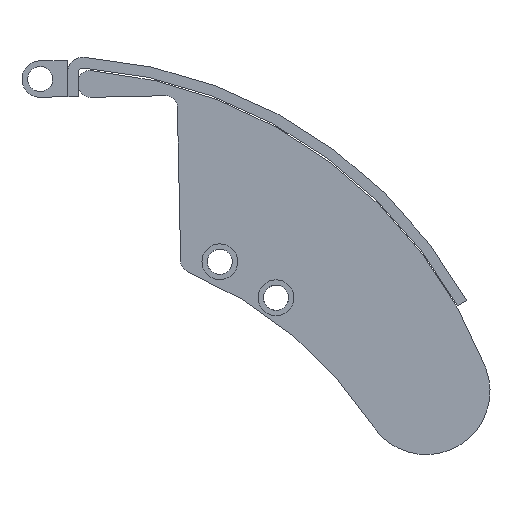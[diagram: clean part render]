
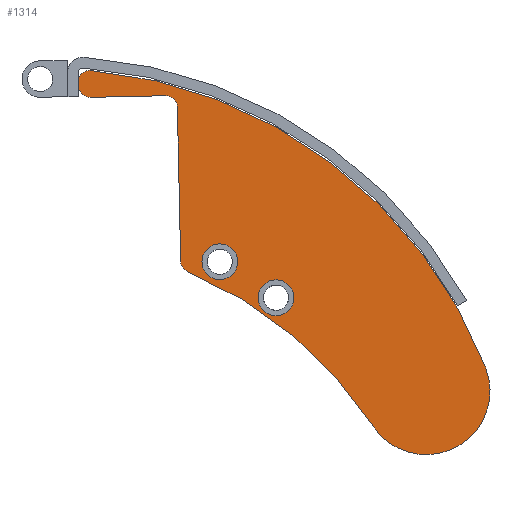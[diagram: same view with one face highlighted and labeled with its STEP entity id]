
A CAD part, front view. The second image highlights one B-rep face of the part: STEP entity #1314.
In plain terms, the highlighted planar face has unit normal (0, -1, 0).
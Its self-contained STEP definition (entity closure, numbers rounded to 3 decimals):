
#19 = FACE_BOUND ( 'NONE', #1353, .T. ) ;
#35 = EDGE_LOOP ( 'NONE', ( #888, #1265, #868, #1723, #1143, #1084, #1852, #40, #2043, #1909 ) ) ;
#40 = ORIENTED_EDGE ( 'NONE', *, *, #1778, .F. ) ;
#43 = ORIENTED_EDGE ( 'NONE', *, *, #214, .F. ) ;
#81 = VECTOR ( 'NONE', #1165, 1000. ) ;
#132 = CARTESIAN_POINT ( 'NONE',  ( -44.439, 299.304, 1177.356 ) ) ;
#179 = CIRCLE ( 'NONE', #257, 6.35 ) ;
#182 = EDGE_CURVE ( 'NONE', #862, #272, #1641, .T. ) ;
#197 = DIRECTION ( 'NONE',  ( 0., -1., 0. ) ) ;
#200 = ORIENTED_EDGE ( 'NONE', *, *, #408, .F. ) ;
#209 = ORIENTED_EDGE ( 'NONE', *, *, #1649, .F. ) ;
#214 = EDGE_CURVE ( 'NONE', #1692, #742, #976, .T. ) ;
#222 = CIRCLE ( 'NONE', #512, 35.56 ) ;
#225 = DIRECTION ( 'NONE',  ( 0., 1., 0. ) ) ;
#227 = DIRECTION ( 'NONE',  ( -1., 0., -0.021 ) ) ;
#230 = EDGE_CURVE ( 'NONE', #742, #1692, #661, .T. ) ;
#255 = CARTESIAN_POINT ( 'NONE',  ( -161.56, 299.304, 1295.16 ) ) ;
#257 = AXIS2_PLACEMENT_3D ( 'NONE', #1052, #1703, #273 ) ;
#272 = VERTEX_POINT ( 'NONE', #1149 ) ;
#273 = DIRECTION ( 'NONE',  ( -1., 0., -0.021 ) ) ;
#276 = LINE ( 'NONE', #1112, #1705 ) ;
#352 = DIRECTION ( 'NONE',  ( 0., -1., 0. ) ) ;
#364 = DIRECTION ( 'NONE',  ( 0., -1., 0. ) ) ;
#375 = DIRECTION ( 'NONE',  ( -1., 0., -0.021 ) ) ;
#387 = CARTESIAN_POINT ( 'NONE',  ( -51.437, 299.304, 1177.206 ) ) ;
#408 = EDGE_CURVE ( 'NONE', #2014, #1764, #1530, .T. ) ;
#412 = DIRECTION ( 'NONE',  ( -1., 0., -0.021 ) ) ;
#479 = VERTEX_POINT ( 'NONE', #1653 ) ;
#500 = AXIS2_PLACEMENT_3D ( 'NONE', #570, #1535, #227 ) ;
#509 = CIRCLE ( 'NONE', #1606, 260.366 ) ;
#512 = AXIS2_PLACEMENT_3D ( 'NONE', #924, #225, #900 ) ;
#547 = EDGE_CURVE ( 'NONE', #1885, #1198, #509, .T. ) ;
#570 = CARTESIAN_POINT ( 'NONE',  ( -98.236, 299.304, 1197.583 ) ) ;
#575 = EDGE_CURVE ( 'NONE', #1337, #862, #276, .T. ) ;
#622 = AXIS2_PLACEMENT_3D ( 'NONE', #387, #910, #1550 ) ;
#626 = DIRECTION ( 'NONE',  ( 0., 1., 0. ) ) ;
#631 = CIRCLE ( 'NONE', #1157, 228.6 ) ;
#636 = CARTESIAN_POINT ( 'NONE',  ( -155.261, 299.304, 1297.608 ) ) ;
#643 = CIRCLE ( 'NONE', #1357, 6.35 ) ;
#660 = CARTESIAN_POINT ( 'NONE',  ( -155.211, 299.304, 1295.296 ) ) ;
#661 = CIRCLE ( 'NONE', #1109, 7. ) ;
#696 = DIRECTION ( 'NONE',  ( 0., -1., 0. ) ) ;
#742 = VERTEX_POINT ( 'NONE', #1278 ) ;
#794 = DIRECTION ( 'NONE',  ( 0., 1., 0. ) ) ;
#798 = AXIS2_PLACEMENT_3D ( 'NONE', #1997, #197, #375 ) ;
#811 = CARTESIAN_POINT ( 'NONE',  ( -161.56, 299.304, 1295.16 ) ) ;
#862 = VERTEX_POINT ( 'NONE', #1555 ) ;
#865 = CARTESIAN_POINT ( 'NONE',  ( -51.437, 299.304, 1177.206 ) ) ;
#868 = ORIENTED_EDGE ( 'NONE', *, *, #870, .F. ) ;
#870 = EDGE_CURVE ( 'NONE', #1198, #874, #222, .T. ) ;
#874 = VERTEX_POINT ( 'NONE', #2074 ) ;
#888 = ORIENTED_EDGE ( 'NONE', *, *, #1953, .F. ) ;
#900 = DIRECTION ( 'NONE',  ( 1., 0., 0.021 ) ) ;
#910 = DIRECTION ( 'NONE',  ( 0., -1., 0. ) ) ;
#924 = CARTESIAN_POINT ( 'NONE',  ( 32.294, 299.304, 1125.293 ) ) ;
#932 = CARTESIAN_POINT ( 'NONE',  ( -58.435, 299.304, 1177.055 ) ) ;
#940 = ORIENTED_EDGE ( 'NONE', *, *, #230, .F. ) ;
#949 = DIRECTION ( 'NONE',  ( 1., 0., 0.021 ) ) ;
#976 = CIRCLE ( 'NONE', #1342, 7. ) ;
#989 = AXIS2_PLACEMENT_3D ( 'NONE', #660, #1661, #1802 ) ;
#992 = EDGE_CURVE ( 'NONE', #874, #1839, #631, .T. ) ;
#1013 = DIRECTION ( 'NONE',  ( 1., 0., 0.021 ) ) ;
#1046 = VERTEX_POINT ( 'NONE', #2037 ) ;
#1052 = CARTESIAN_POINT ( 'NONE',  ( -98.236, 299.304, 1197.583 ) ) ;
#1084 = ORIENTED_EDGE ( 'NONE', *, *, #1450, .F. ) ;
#1097 = CARTESIAN_POINT ( 'NONE',  ( -75.753, 299.304, 1197.418 ) ) ;
#1109 = AXIS2_PLACEMENT_3D ( 'NONE', #1983, #696, #1350 ) ;
#1112 = CARTESIAN_POINT ( 'NONE',  ( -104.585, 299.304, 1197.447 ) ) ;
#1143 = ORIENTED_EDGE ( 'NONE', *, *, #1346, .F. ) ;
#1149 = CARTESIAN_POINT ( 'NONE',  ( -112.921, 299.304, 1289.853 ) ) ;
#1157 = AXIS2_PLACEMENT_3D ( 'NONE', #1828, #352, #1013 ) ;
#1165 = DIRECTION ( 'NONE',  ( -0.021, 0., 1. ) ) ;
#1166 = DIRECTION ( 'NONE',  ( -1., 0., -0.021 ) ) ;
#1170 = CARTESIAN_POINT ( 'NONE',  ( -100.685, 299.304, 1191.725 ) ) ;
#1198 = VERTEX_POINT ( 'NONE', #1246 ) ;
#1210 = FACE_BOUND ( 'NONE', #1623, .T. ) ;
#1218 = VECTOR ( 'NONE', #1287, 1000. ) ;
#1226 = PLANE ( 'NONE',  #500 ) ;
#1246 = CARTESIAN_POINT ( 'NONE',  ( 65.482, 299.304, 1138.062 ) ) ;
#1263 = DIRECTION ( 'NONE',  ( -0.021, 0., 1. ) ) ;
#1265 = ORIENTED_EDGE ( 'NONE', *, *, #992, .F. ) ;
#1275 = CARTESIAN_POINT ( 'NONE',  ( -177.519, 299.304, 1044.569 ) ) ;
#1278 = CARTESIAN_POINT ( 'NONE',  ( -89.75, 299.304, 1197.117 ) ) ;
#1287 = DIRECTION ( 'NONE',  ( -1., 0., -0.021 ) ) ;
#1314 = ADVANCED_FACE ( 'NONE', ( #19, #1210, #1387 ), #1226, .T. ) ;
#1337 = VERTEX_POINT ( 'NONE', #1580 ) ;
#1342 = AXIS2_PLACEMENT_3D ( 'NONE', #1854, #364, #1166 ) ;
#1346 = EDGE_CURVE ( 'NONE', #479, #1885, #643, .T. ) ;
#1350 = DIRECTION ( 'NONE',  ( -1., 0., -0.021 ) ) ;
#1353 = EDGE_LOOP ( 'NONE', ( #43, #940 ) ) ;
#1357 = AXIS2_PLACEMENT_3D ( 'NONE', #636, #794, #949 ) ;
#1387 = FACE_OUTER_BOUND ( 'NONE', #35, .T. ) ;
#1388 = VERTEX_POINT ( 'NONE', #255 ) ;
#1450 = EDGE_CURVE ( 'NONE', #1388, #479, #1499, .T. ) ;
#1499 = LINE ( 'NONE', #811, #81 ) ;
#1530 = CIRCLE ( 'NONE', #622, 7. ) ;
#1535 = DIRECTION ( 'NONE',  ( 0., -1., 0. ) ) ;
#1542 = CARTESIAN_POINT ( 'NONE',  ( -154.705, 299.304, 1303.933 ) ) ;
#1550 = DIRECTION ( 'NONE',  ( -1., 0., -0.021 ) ) ;
#1555 = CARTESIAN_POINT ( 'NONE',  ( -106.436, 299.304, 1283.641 ) ) ;
#1563 = CIRCLE ( 'NONE', #1654, 7. ) ;
#1580 = CARTESIAN_POINT ( 'NONE',  ( -104.585, 299.304, 1197.447 ) ) ;
#1606 = AXIS2_PLACEMENT_3D ( 'NONE', #1275, #626, #1939 ) ;
#1623 = EDGE_LOOP ( 'NONE', ( #200, #209 ) ) ;
#1641 = CIRCLE ( 'NONE', #798, 6.35 ) ;
#1649 = EDGE_CURVE ( 'NONE', #1764, #2014, #1563, .T. ) ;
#1653 = CARTESIAN_POINT ( 'NONE',  ( -161.609, 299.304, 1297.471 ) ) ;
#1654 = AXIS2_PLACEMENT_3D ( 'NONE', #865, #1853, #412 ) ;
#1661 = DIRECTION ( 'NONE',  ( 0., 1., 0. ) ) ;
#1692 = VERTEX_POINT ( 'NONE', #1097 ) ;
#1703 = DIRECTION ( 'NONE',  ( 0., 1., 0. ) ) ;
#1705 = VECTOR ( 'NONE', #1263, 1000. ) ;
#1723 = ORIENTED_EDGE ( 'NONE', *, *, #547, .F. ) ;
#1764 = VERTEX_POINT ( 'NONE', #932 ) ;
#1778 = EDGE_CURVE ( 'NONE', #272, #1046, #2118, .T. ) ;
#1802 = DIRECTION ( 'NONE',  ( 1., 0., 0.021 ) ) ;
#1828 = CARTESIAN_POINT ( 'NONE',  ( -188.852, 299.304, 980.811 ) ) ;
#1839 = VERTEX_POINT ( 'NONE', #1170 ) ;
#1852 = ORIENTED_EDGE ( 'NONE', *, *, #2077, .F. ) ;
#1853 = DIRECTION ( 'NONE',  ( 0., -1., 0. ) ) ;
#1854 = CARTESIAN_POINT ( 'NONE',  ( -82.751, 299.304, 1197.268 ) ) ;
#1885 = VERTEX_POINT ( 'NONE', #1542 ) ;
#1909 = ORIENTED_EDGE ( 'NONE', *, *, #575, .F. ) ;
#1914 = CARTESIAN_POINT ( 'NONE',  ( -112.921, 299.304, 1289.853 ) ) ;
#1921 = CIRCLE ( 'NONE', #989, 6.35 ) ;
#1939 = DIRECTION ( 'NONE',  ( 1., 0., 0.021 ) ) ;
#1953 = EDGE_CURVE ( 'NONE', #1839, #1337, #179, .T. ) ;
#1983 = CARTESIAN_POINT ( 'NONE',  ( -82.751, 299.304, 1197.268 ) ) ;
#1997 = CARTESIAN_POINT ( 'NONE',  ( -112.784, 299.304, 1283.504 ) ) ;
#2014 = VERTEX_POINT ( 'NONE', #132 ) ;
#2037 = CARTESIAN_POINT ( 'NONE',  ( -155.075, 299.304, 1288.948 ) ) ;
#2043 = ORIENTED_EDGE ( 'NONE', *, *, #182, .F. ) ;
#2074 = CARTESIAN_POINT ( 'NONE',  ( 2.524, 299.304, 1105.844 ) ) ;
#2077 = EDGE_CURVE ( 'NONE', #1046, #1388, #1921, .T. ) ;
#2118 = LINE ( 'NONE', #1914, #1218 ) ;
